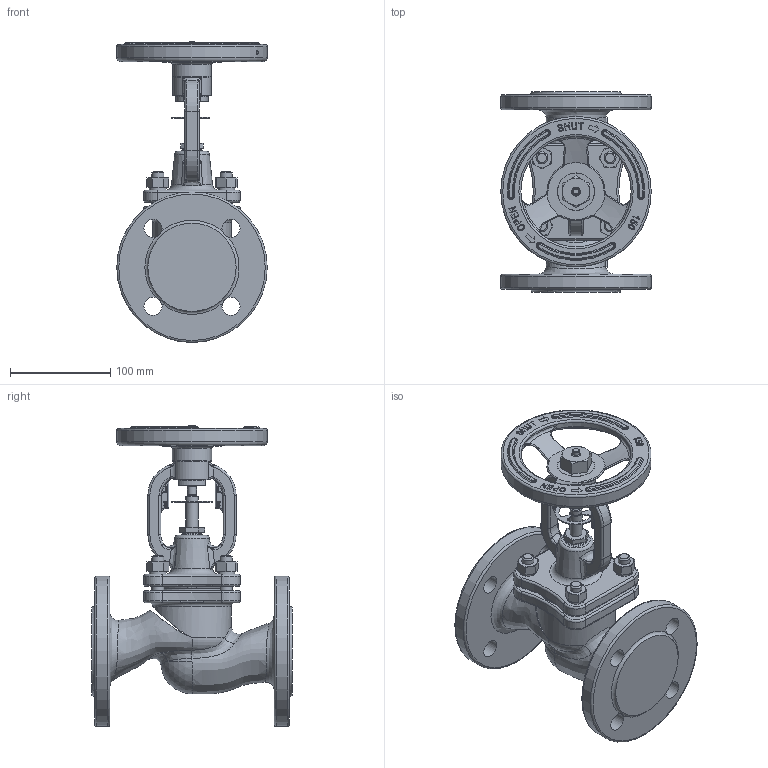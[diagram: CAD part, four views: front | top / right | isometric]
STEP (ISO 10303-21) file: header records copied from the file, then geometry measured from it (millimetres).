
FILE_DESCRIPTION(/* description */ (''),/* implementation_level */ '2;1');
FILE_NAME(/* name */ 'ZV226E_DN40_PN40.stp',/* time_stamp */ '2014-09-30T06:37:17+02:00',/* author */ (''),/* organization */ (''),/* preprocessor_version */ 'ST-DEVELOPER v15',/* originating_system */ 'SIEMENS PLM Software NX 8.5',/* authorisation */ '');
FILE_SCHEMA (('AP203_CONFIGURATION_CONTROLLED_3D_DESIGN_OF_MECHANICAL_PARTS_AND_ASSEMBLIES_MIM_LF { 1 0 10303 403 2 1 2}'));
Length unit declared in the file: millimetre
Products named in the file (1): adam0F487721p5bq
Bounding box: 150 x 200 x 300.1 mm (x, y, z)
Volume: 1560074.9 mm3; surface area: 226108.3 mm2
Topology: 1 solids, 2 shells, 816 faces, 2040 edges, 1245 vertices
Faces by surface type: plane 305, cylinder 159, torus 125, bspline 114, cone 85, extrusion 23, sphere 5
Full cylindrical faces by diameter (mm): 2 x4, 4 x5, 7 x1, 9 x2, 12 x14, 18 x8, 19.7 x2, 20 x1, 22 x1, 24 x1, 25 x1, 35 x2, 37 x1, 37.2 x1, 39 x1, 72 x1, 78 x2, 110 x1, 113 x1, 132 x1, 147 x1, 150 x3
Entity records: 30438 total; most frequent: CARTESIAN_POINT 12941, ORIENTED_EDGE 3734, DIRECTION 3275, EDGE_CURVE 1867, AXIS2_PLACEMENT_3D 1357, VERTEX_POINT 1191, EDGE_LOOP 1008, ADVANCED_FACE 815
